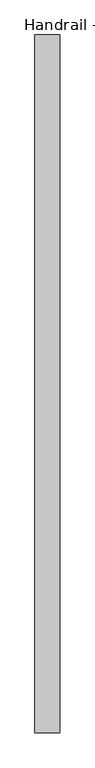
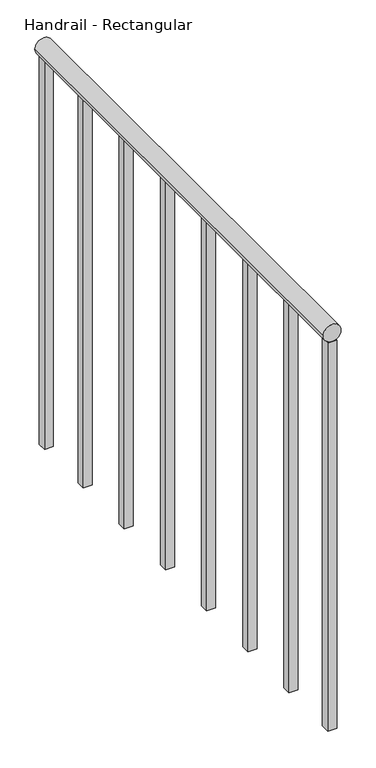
"""IFC4 building model written with IfcOpenShell, lengths in millimetres: railing geometry, Handrail - Rectangular."""

from ifc_helpers import new_model, si_unit, point, frame, frame_2d, origin, place, context, project, spatial, polyline, circle_curve, trimmed, segment, composite_curve, outline, extrude, source, transform, mapped, element, save


def handrail_rectangular_8c986ea6(model_context):
    return source(origin(), model_context, "Body", "SweptSolid", [
        extrude(outline(composite_curve([segment(trimmed(circle_curve(frame_2d((3943.35, -32167.4839563)), 19.05), [point((3943.35, -32186.5339563))], [point((3943.35, -32148.4339563))], False, "CARTESIAN"), True, "CONTINUOUS"), segment(trimmed(circle_curve(frame_2d((3943.35, -32167.4839563)), 19.05), [point((3943.35, -32148.4339563))], [point((3943.35, -32186.5339563))], False, "CARTESIAN"), True, "CONTINUOUS")], self_intersect=False)), frame((0.0, -31539.9683133, 0.0), z_axis=(0.0, 1.0, 0.0), x_axis=(0.0, 0.0, 1.0)), (0.0, 0.0, 1.0), 1066.8),
        extrude(outline(polyline([(-32157.9589563, -30635.0933133), (-32177.0089563, -30635.0933133), (-32177.0089563, -30616.0433133), (-32157.9589563, -30616.0433133), (-32157.9589563, -30635.0933133)])), frame((0.0, 0.0, 3048.0), z_axis=(0.0, 0.0, 1.0), x_axis=(1.0, 0.0, 0.0)), (0.0, 0.0, 1.0), 876.3),
        extrude(outline(polyline([(-32157.9589563, -30787.4933133), (-32177.0089563, -30787.4933133), (-32177.0089563, -30768.4433133), (-32157.9589563, -30768.4433133), (-32157.9589563, -30787.4933133)])), frame((0.0, 0.0, 3048.0), z_axis=(0.0, 0.0, 1.0), x_axis=(1.0, 0.0, 0.0)), (0.0, 0.0, 1.0), 876.3),
        extrude(outline(polyline([(-32157.9589563, -30939.8933133), (-32177.0089563, -30939.8933133), (-32177.0089563, -30920.8433133), (-32157.9589563, -30920.8433133), (-32157.9589563, -30939.8933133)])), frame((0.0, 0.0, 3048.0), z_axis=(0.0, 0.0, 1.0), x_axis=(1.0, 0.0, 0.0)), (0.0, 0.0, 1.0), 876.3),
        extrude(outline(polyline([(-32157.9589563, -31092.2933133), (-32177.0089563, -31092.2933133), (-32177.0089563, -31073.2433133), (-32157.9589563, -31073.2433133), (-32157.9589563, -31092.2933133)])), frame((0.0, 0.0, 3048.0), z_axis=(0.0, 0.0, 1.0), x_axis=(1.0, 0.0, 0.0)), (0.0, 0.0, 1.0), 876.3),
        extrude(outline(polyline([(-32157.9589563, -31244.6933133), (-32177.0089563, -31244.6933133), (-32177.0089563, -31225.6433133), (-32157.9589563, -31225.6433133), (-32157.9589563, -31244.6933133)])), frame((0.0, 0.0, 3048.0), z_axis=(0.0, 0.0, 1.0), x_axis=(1.0, 0.0, 0.0)), (0.0, 0.0, 1.0), 876.3),
        extrude(outline(polyline([(-32157.9589563, -31397.0933133), (-32177.0089563, -31397.0933133), (-32177.0089563, -31378.0433133), (-32157.9589563, -31378.0433133), (-32157.9589563, -31397.0933133)])), frame((0.0, 0.0, 3048.0), z_axis=(0.0, 0.0, 1.0), x_axis=(1.0, 0.0, 0.0)), (0.0, 0.0, 1.0), 876.3),
        extrude(outline(polyline([(-32157.9589563, -30492.2183133), (-32177.0089563, -30492.2183133), (-32177.0089563, -30473.1683133), (-32157.9589563, -30473.1683133), (-32157.9589563, -30492.2183133)])), frame((0.0, 0.0, 3048.0), z_axis=(0.0, 0.0, 1.0), x_axis=(1.0, 0.0, 0.0)), (0.0, 0.0, 1.0), 876.3),
        extrude(outline(polyline([(-32157.9589563, -31539.9683133), (-32177.0089563, -31539.9683133), (-32177.0089563, -31520.9183133), (-32157.9589563, -31520.9183133), (-32157.9589563, -31539.9683133)])), frame((0.0, 0.0, 3048.0), z_axis=(0.0, 0.0, 1.0), x_axis=(1.0, 0.0, 0.0)), (0.0, 0.0, 1.0), 876.3),
    ])


if __name__ == "__main__":
    model = new_model("IFC4")
    model_context = context("Model", 3, world=origin())
    ifc_project = project(units=[si_unit("LENGTHUNIT", "METRE", prefix="MILLI")], contexts=[model_context])
    site = spatial("IfcSite", under=ifc_project)
    building = spatial("IfcBuilding", under=site)
    placement = place(None, origin())
    handrail_rectangular_shape = handrail_rectangular_8c986ea6(model_context)
    element("IfcRailing", 1, ObjectType="Handrail - Rectangular", at=placement, inside=building, context=model_context, shape_type="MappedRepresentation", body=[
        mapped(handrail_rectangular_shape, transform((0.0, 0.0, 0.0), x_axis=(1.0, 0.0, 0.0), y_axis=(0.0, 1.0, 0.0), z_axis=(0.0, 0.0, 1.0))),
    ])
    save(model, "model.ifc")
